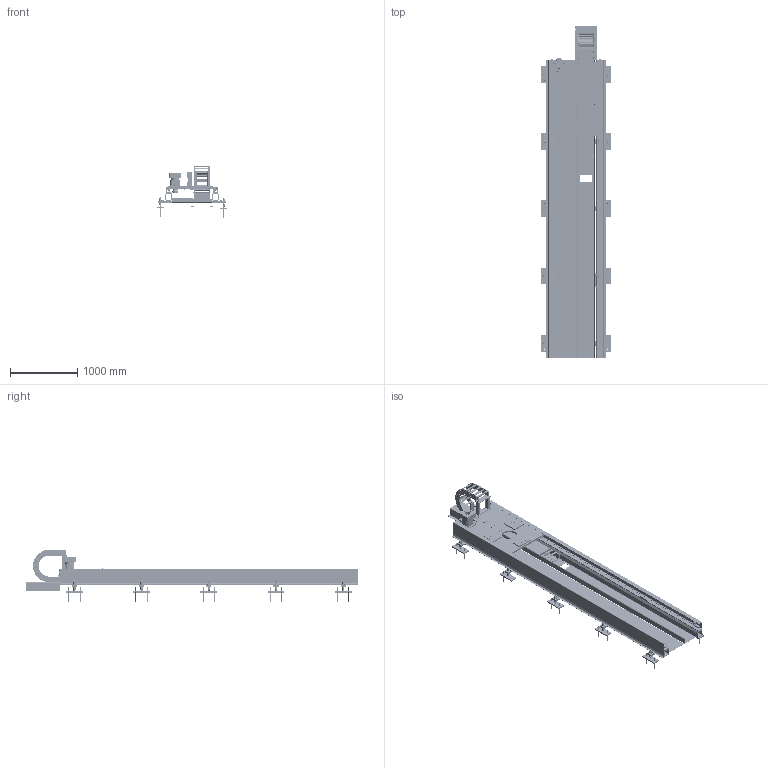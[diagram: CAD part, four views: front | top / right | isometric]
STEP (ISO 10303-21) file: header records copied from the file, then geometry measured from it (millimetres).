
FILE_DESCRIPTION (( 'STEP AP203' ), '1' );
FILE_NAME ('梓袧1000kg迍蟈囀离唳.STEP', '2021-10-15T08:31:51', ( '' ), ( '' ), 'SwSTEP 2.0', 'SolidWorks 2018', '' );
FILE_SCHEMA (( 'CONFIG_CONTROL_DESIGN' ));
Length unit declared in the file: millimetre
Products named in the file (47): Maedler Strukturdämpfer 69103400; 梓袧1000kg迍蟈囀离唳; LM2006-02-0010; LM2006-01-0007; LM2006-02-0008; LM2005-01-0102; E2B_M12KS02_WP_C1_CLAMPING_NUT_Default; LM2006-01-0006; U-Scheibe_M20 gross_1; HGH35; LM2006-01-0010; LM2006-01-0005; ATLANTA Filzritzel 65-91-418; E2B_M12KS02_WZ_C1; 迍蟈郪磁; Schweissnaht^RSAG RAIL Assembly Levelling Foot_1; LM2006-01-0000; 熬厒儂郪璃; LM2006-02-0000; LM2006-02-0003; Mutter_M20_1; RSAG RAIL Threaded Bar_1; LM2006-02-0006; LM2006-01-0002; LM2006-01-0011; LM2005-03-0007; LM2006-01-0008; 142-L1-35-114.3-200-M12(樓綠); 2_366m_14240_20_200_0___143400_20_12_C_A1_4; LM2006-01-0001_默认<按加工>; F03L25B40; RSAG RAIL Assembly Levelling Foot_1; LM2006-02-0005; LM2006-02-0009; LM2006-01-0009; LM2006-01-0003; LM2006-02-0007; LM2006-01-0012; 結輸郪蚾; RSAG RAIL Adhesive Anchor M16x200_1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
Assembly tree (102 placements, depth 4):
  梓袧1000kg迍蟈囀离唳
    LM2006-01-0000
      LM2006-01-0001_默认<按加工>
      LM2006-01-0002  x2
      LM2006-01-0003  x2
      LM2006-01-0004  x2
      LM2006-01-0005  x2
      LM2006-01-0006
      LM2006-01-0007  x4
      LM2006-01-0008
      LM2006-01-0009  x2
      LM2006-01-0010
      結輸郪蚾  x4
        LM2006-01-0011
        Maedler Strukturdämpfer 69103400
        LM2005-01-0102
      LM2006-01-0012  x2
      RSAG RAIL Assembly Levelling Foot_1  x10
        RSAG RAIL Levelling Foot Plate_1
        RSAG RAIL Threaded Bar_1
        U-Scheibe_M20 gross_1
        Mutter_M20_1
        RSAG RAIL Adhesive Anchor M16x200_1
        Schweissnaht^RSAG RAIL Assembly Levelling Foot_1
      E2B_M12KS02_WZ_C1  x3
        E2B_M12KS02_WP_C1_CLAMPING_NUT_Default
        E2B_M12KS02_WP_C1_BASE_Default
    LM2006-02-0000
      LM2006-02-0001_默认<按加工>
      LM2006-02-0002_默认<按加工>
      LM2006-02-0003  x18
      LM2006-02-0004
      LM2006-02-0005
      熬厒儂郪璃
        LM2006-02-0006
        LM2006-02-0007
        LM2006-02-0008
        LM2006-02-0009
        142-L1-35-114.3-200-M12(樓綠)
        ATLANTA Filzritzel 65-91-418
        F03L25B40
      LM2006-02-0010
      LM2005-03-0007
      LM2005-03-0035  x8
      HGH35  x2
    迍蟈郪磁
      2_366m_14240_20_200_0___143400_20_12_C_A1_4
Bounding box: 1040 x 4940 x 778 mm (x, y, z)
Volume: 110588699.8 mm3; surface area: 29833966 mm2
Topology: 256 solids, 283 shells, 8145 faces, 21357 edges, 13781 vertices
Faces by surface type: plane 4415, cylinder 2705, cone 802, bspline 148, torus 75
Entity records: 209861 total; most frequent: CARTESIAN_POINT 62872, ORIENTED_EDGE 29643, DIRECTION 27933, EDGE_CURVE 14832, VERTEX_POINT 9756, LINE 9437, VECTOR 9437, AXIS2_PLACEMENT_3D 9248
